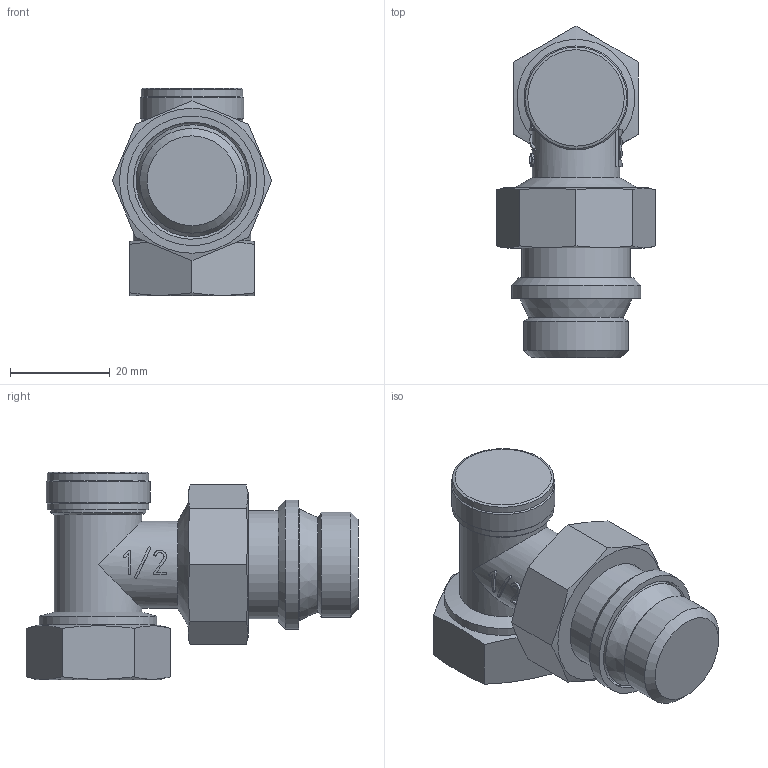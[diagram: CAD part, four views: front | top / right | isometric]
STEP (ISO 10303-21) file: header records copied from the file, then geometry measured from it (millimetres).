
FILE_DESCRIPTION(('STEP AP203'), '1');
FILE_NAME('VT.019.N.04', '2024-06-27T09:13:12', ('User'), ('Vesta'), 'C3D Converter', 'C3D Toolkit', '');
FILE_SCHEMA(('CONFIG_CONTROL_DESIGN'));
Length unit declared in the file: millimetre
Products named in the file (1): ВР.493176.015.000 СБ
Bounding box: 31.93 x 66.43 x 41.5 mm (x, y, z)
Volume: 30914.6 mm3; surface area: 9587.1 mm2
Topology: 1 solids, 1 shells, 137 faces, 350 edges, 229 vertices
Faces by surface type: plane 55, extrusion 42, cylinder 22, cone 17, torus 1
Full cylindrical faces by diameter (mm): 17.5 x2, 18.3 x1, 18.632 x1, 19 x1, 20.3 x2, 20.8 x1, 20.955 x1, 21.7 x1, 22 x1, 22.4 x1, 23.4 x1, 23.5 x1, 25.9 x1
Entity records: 6229 total; most frequent: CARTESIAN_POINT 3262, ORIENTED_EDGE 630, DIRECTION 474, EDGE_CURVE 315, VERTEX_POINT 229, EDGE_LOOP 186, AXIS2_PLACEMENT_3D 165, B_SPLINE_CURVE_WITH_KNOTS 158
